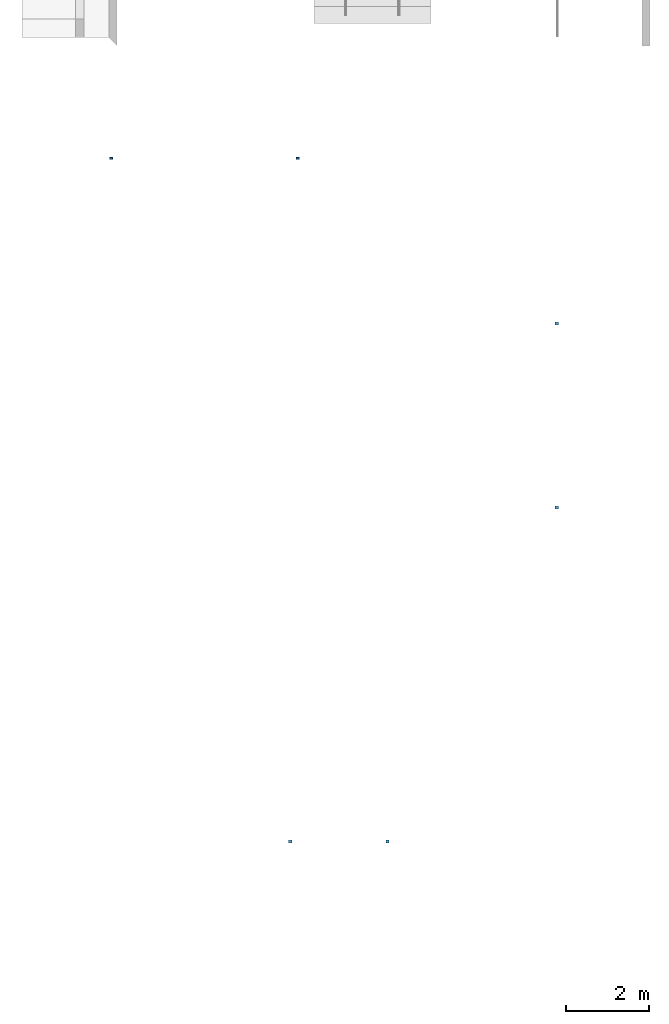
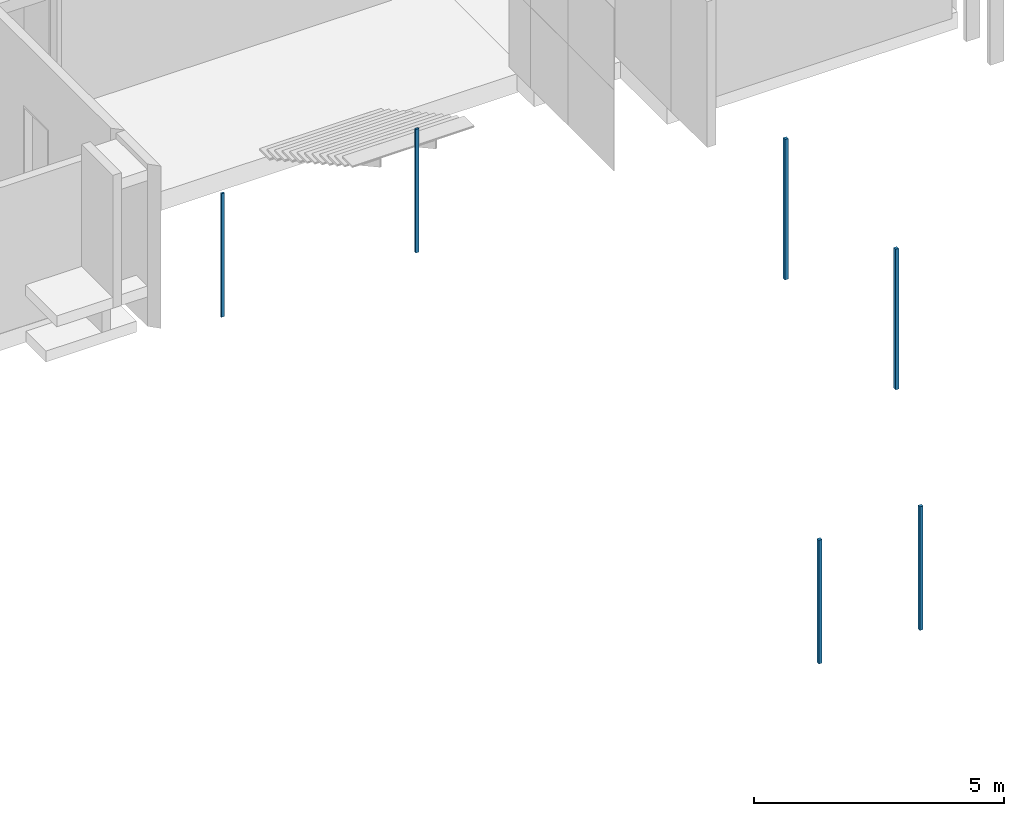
# One storey, part 1 of 62: 6 columns.
"""IFC2X3 building model written with IfcOpenShell, lengths in millimetres."""

from ifc_helpers import new_model, entity, si_unit, converted_unit, derived_unit, money_unit, direction, frame, origin_with_axes, origin_2d_with_axis, place, context, subcontext, project, spatial, rectangle, extrude, material, type_object, element, save


model = new_model("IFC2X3")

# Units and contexts
model_context = context("Model", 3, precision=0.01, world=origin_with_axes(), true_north=direction((0.0, 1.0)))
body_context = subcontext(model_context, "Body", "Model", "MODEL_VIEW")
ifc_project = project(units=[si_unit("LENGTHUNIT", "METRE", prefix="MILLI"), si_unit("AREAUNIT", "SQUARE_METRE"), si_unit("VOLUMEUNIT", "CUBIC_METRE"), converted_unit("PLANEANGLEUNIT", "DEGREE", entity("IfcPlaneAngleMeasure", 0.0174532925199), si_unit("PLANEANGLEUNIT", "RADIAN"), dimensions=[0, 0, 0, 0, 0, 0, 0]), si_unit("SOLIDANGLEUNIT", "STERADIAN"), money_unit("EUR"), converted_unit("TIMEUNIT", "Year", entity("IfcTimeMeasure", 31556926.0), si_unit("TIMEUNIT", "SECOND"), dimensions=[0, 0, 1, 0, 0, 0, 0]), si_unit("MASSUNIT", "GRAM", prefix="KILO"), si_unit("THERMODYNAMICTEMPERATUREUNIT", "DEGREE_CELSIUS"), si_unit("LUMINOUSINTENSITYUNIT", "LUMEN"), si_unit("ENERGYUNIT", "JOULE", prefix="MEGA"), derived_unit("THERMALCONDUCTANCEUNIT", [(si_unit("POWERUNIT", "WATT"), 1), (si_unit("LENGTHUNIT", "METRE"), -1), (si_unit("THERMODYNAMICTEMPERATUREUNIT", "KELVIN"), -1)]), derived_unit("SPECIFICHEATCAPACITYUNIT", [(si_unit("ENERGYUNIT", "JOULE"), 1), (si_unit("MASSUNIT", "GRAM", prefix="KILO"), -1), (si_unit("THERMODYNAMICTEMPERATUREUNIT", "KELVIN"), -1)]), derived_unit("MASSDENSITYUNIT", [(si_unit("MASSUNIT", "GRAM", prefix="KILO"), 1), (si_unit("VOLUMEUNIT", "CUBIC_METRE"), -1)])], contexts=[model_context])

# Site, building, storey
site_placement = place(None, origin_with_axes())
site = spatial("IfcSite", under=ifc_project, at=site_placement, Name="Puškini 31, Narva", CompositionType="ELEMENT")
building_placement = place(site_placement, origin_with_axes())
building = spatial("IfcBuilding", under=site, at=building_placement, Name="Narva Riigigümnaasium", CompositionType="ELEMENT")
storey_placement = place(building_placement, frame((0.0, 0.0, 660.0), z_axis=(0.0, 0.0, 1.0), x_axis=(1.0, 0.0, 0.0)))
storey = spatial("IfcBuildingStorey", under=building, at=storey_placement, Name="2.korrus +0.66", CompositionType="ELEMENT", Elevation=660.0)

# Columns
ifc_material = material(Name="ET-06_Teras - Konstruktsioon")
column_type_1 = type_object("IfcColumnType", Name="ET-06_Teras - Konstruktsioon 75 x 45", PredefinedType="COLUMN")
column_1_placement = place(storey_placement, frame((39242.0007126, 192002.526526, 1980.0), z_axis=(0.0, 0.0, 1.0), x_axis=(1.0, 0.0, 0.0)))
element("IfcColumn", 1, at=column_1_placement, inside=storey, type_object=column_type_1, material=ifc_material, Name="Post", ObjectType="COLUMN", context=body_context, shape_type="SweptSolid", body=[
    extrude(rectangle(XDim=75.0, YDim=45.0, at=origin_2d_with_axis()), origin_with_axes(), (0.0, 0.0, 1.0), 3014.99992946),
])
column_type_2 = type_object("IfcColumnType", Name="ET-06_Teras - Konstruktsioon 74 x 45", PredefinedType="COLUMN")
column_2_placement = place(storey_placement, frame((34758.5198053, 192002.526526, 1980.0), z_axis=(0.0, 0.0, 1.0), x_axis=(1.0, 0.0, 0.0)))
element("IfcColumn", 2, at=column_2_placement, inside=storey, type_object=column_type_2, material=ifc_material, Name="Post", ObjectType="COLUMN", context=body_context, shape_type="SweptSolid", body=[
    extrude(rectangle(XDim=74.0, YDim=45.0, at=origin_2d_with_axis()), origin_with_axes(), (0.0, 0.0, 1.0), 3014.99992946),
])
column_type_3 = type_object("IfcColumnType", Name="ET-06_Teras - Konstruktsioon 74 x 74", PredefinedType="COLUMN")
column_3_placement = place(storey_placement, frame((45458.4999983, 188027.499994, 1564.99999526), z_axis=(0.0, 0.0, 1.0), x_axis=(1.0, 0.0, 0.0)))
element("IfcColumn", 3, at=column_3_placement, inside=storey, type_object=column_type_3, material=ifc_material, Name="Post", ObjectType="COLUMN", context=body_context, shape_type="SweptSolid", body=[
    extrude(rectangle(XDim=74.0, YDim=74.0, at=origin_2d_with_axis()), origin_with_axes(), (0.0, 0.0, 1.0), 3429.9999342),
])
column_4_placement = place(storey_placement, frame((45457.4999983, 183608.000006, 1564.99994918), z_axis=(0.0, 0.0, 1.0), x_axis=(1.0, 0.0, 0.0)))
element("IfcColumn", 4, at=column_4_placement, inside=storey, type_object=column_type_3, material=ifc_material, Name="Post", ObjectType="COLUMN", context=body_context, shape_type="SweptSolid", body=[
    extrude(rectangle(XDim=74.0, YDim=74.0, at=origin_2d_with_axis()), origin_with_axes(), (0.0, 0.0, 1.0), 3429.99998028),
])
for number, where, z_axis, x_axis, name in (
    (5, (41391.9999978, 175592.500072, 1980.0), (0.0, 0.0, 1.0), (1.0, 0.0, 0.0), "Post"),
    (6, (39058.5000017, 175592.500019, 1980.0), (0.0, 0.0, 1.0), (1.0, 0.0, 0.0), "Post"),
):
    element("IfcColumn", number, at=place(storey_placement, frame(where, z_axis=z_axis, x_axis=x_axis)), inside=storey, type_object=column_type_3, material=ifc_material, Name=name, ObjectType="COLUMN", context=body_context, shape_type="SweptSolid", body=[
        extrude(rectangle(XDim=74.0, YDim=74.0, at=origin_2d_with_axis()), origin_with_axes(), (0.0, 0.0, 1.0), 3014.99992946),
    ])

save(model, "model.ifc")
